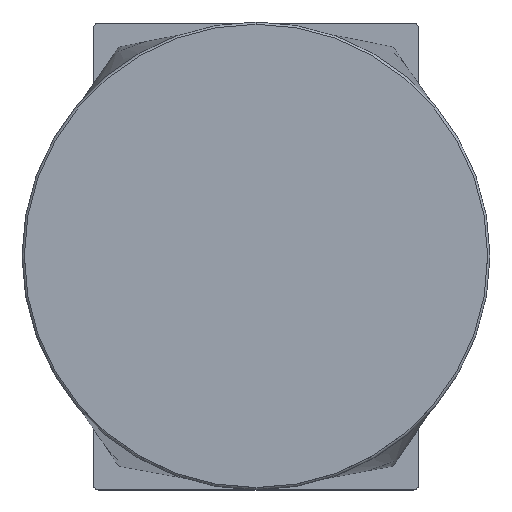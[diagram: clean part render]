
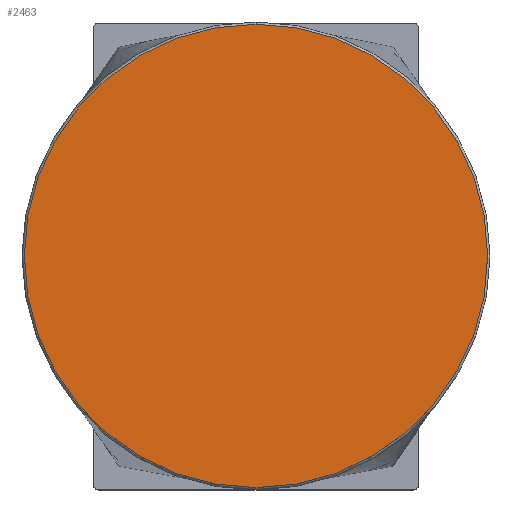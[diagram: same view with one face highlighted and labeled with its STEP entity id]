
A CAD part, top view. The second image highlights one B-rep face of the part: STEP entity #2463.
In plain terms, the highlighted planar face has unit normal (0, 0, 1).
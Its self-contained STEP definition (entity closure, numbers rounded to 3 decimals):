
#726=CARTESIAN_POINT('',(0.,0.,344.3));
#727=DIRECTION('',(0.,0.,-1.));
#728=DIRECTION('',(0.,1.,0.));
#729=AXIS2_PLACEMENT_3D('',#726,#727,#728);
#731=CARTESIAN_POINT('',(0.,0.,344.3));
#732=DIRECTION('',(0.,0.,1.));
#733=DIRECTION('',(0.,1.,0.));
#734=AXIS2_PLACEMENT_3D('',#731,#732,#733);
#769=CARTESIAN_POINT('',(0.,199.,344.3));
#771=VERTEX_POINT('',#769);
#775=CARTESIAN_POINT('',(0.,-199.,344.3));
#777=VERTEX_POINT('',#775);
#2454=CARTESIAN_POINT('',(0.,0.,344.3));
#2455=DIRECTION('',(0.,0.,1.));
#2456=DIRECTION('',(0.,1.,0.));
#2457=AXIS2_PLACEMENT_3D('',#2454,#2455,#2456);
#2458=PLANE('',#2457);
#2459=ORIENTED_EDGE('',*,*,#2436,.T.);
#2460=ORIENTED_EDGE('',*,*,#2447,.F.);
#2461=EDGE_LOOP('',(#2459,#2460));
#2462=FACE_OUTER_BOUND('',#2461,.F.);
#730=CIRCLE('',#729,199.);
#735=CIRCLE('',#734,199.);
#2436=EDGE_CURVE('',#771,#777,#730,.T.);
#2447=EDGE_CURVE('',#771,#777,#735,.T.);
#2463=ADVANCED_FACE('',(#2462),#2458,.T.);
